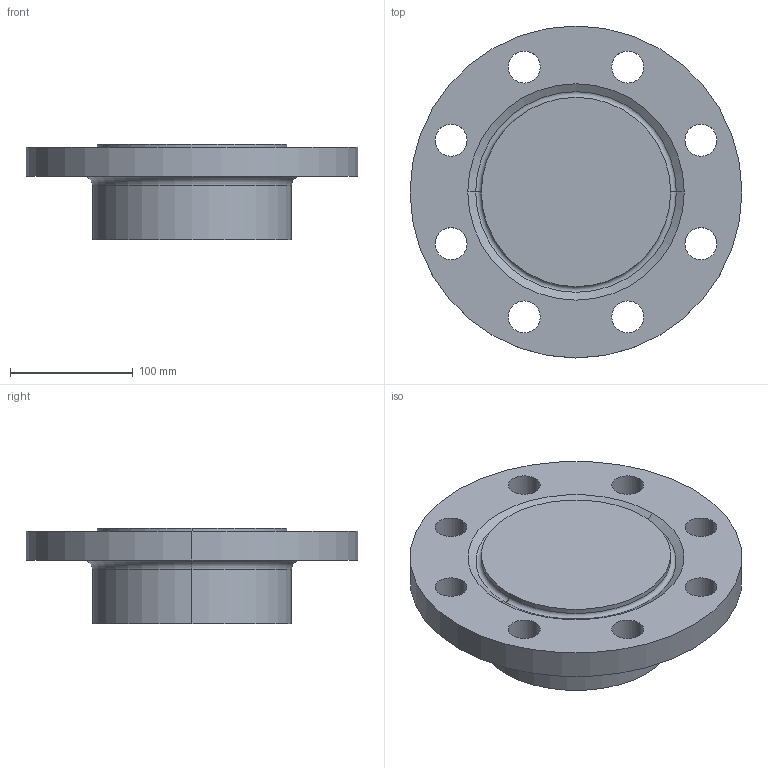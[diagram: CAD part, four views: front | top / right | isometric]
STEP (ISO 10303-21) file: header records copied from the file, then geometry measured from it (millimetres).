
FILE_DESCRIPTION (( 'STEP AP214' ), '1' );
FILE_NAME ('PN40 DN125 Type 21(i) - Type H Face.STEP', '2019-01-02T01:17:47', ( '' ), ( '' ), 'SwSTEP 2.0', 'SolidWorks 2019', '' );
FILE_SCHEMA (( 'AUTOMOTIVE_DESIGN' ));
Length unit declared in the file: millimetre
Products named in the file (1): PN40 DN125 Type 21(i) - Type H Face
Bounding box: 270 x 270 x 78 mm (x, y, z)
Volume: 2355176.7 mm3; surface area: 169485.8 mm2
Topology: 1 solids, 1 shells, 32 faces, 78 edges, 50 vertices
Faces by surface type: cylinder 22, torus 4, plane 4, cone 2
Entity records: 1034 total; most frequent: DIRECTION 198, CARTESIAN_POINT 161, ORIENTED_EDGE 156, AXIS2_PLACEMENT_3D 87, EDGE_CURVE 78, CIRCLE 54, VERTEX_POINT 50, EDGE_LOOP 50
